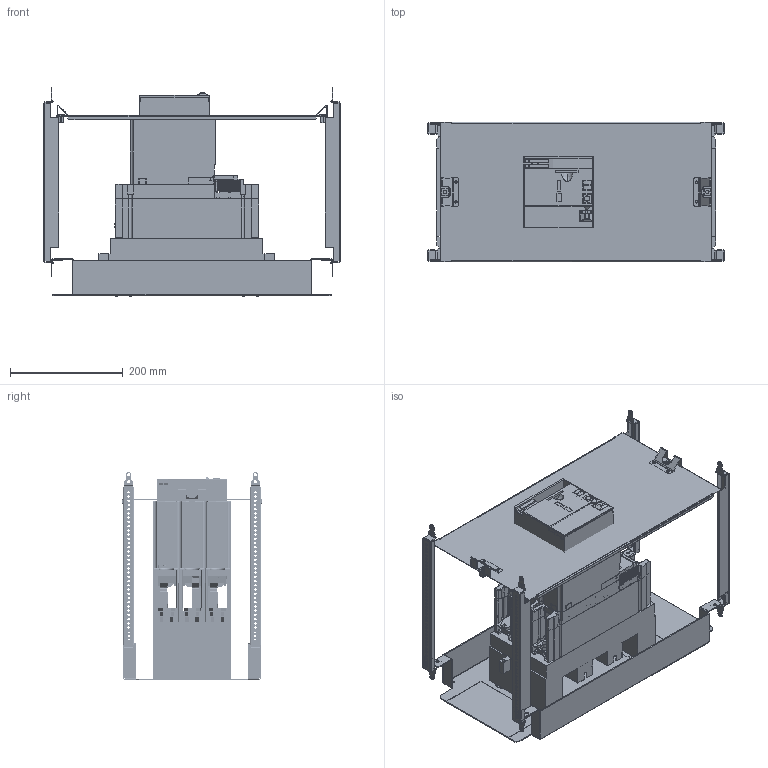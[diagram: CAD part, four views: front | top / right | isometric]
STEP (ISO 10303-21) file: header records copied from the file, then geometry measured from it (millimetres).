
FILE_DESCRIPTION(('CAx-IF Rec.Pracs.---Model Styling and Organization---1.2---2011-12-15','CAx-IF Rec.Pracs.---Geometric and Assembly Validation Properties---4.1---2014-06-16','CAx-IF Rec.Pracs.---PMI Polyline Presentation---2.0---2013-05-24'),'2;1');
FILE_NAME('R5PKIB7H61416.stp','2021-07-29T03:04:35+03:00',(''),(''),'STEP Interface 4.4 by CT CoreTechnologie','3D_Evolution4.4 by CT CoreTechnologie','');
FILE_SCHEMA(('AUTOMOTIVE_DESIGN { 1 0 10303 214 1 1 1 1 }'));
Length unit declared in the file: millimetre
Products named in the file (1): R5PKIB7H61416
Bounding box: 526 x 248 x 369.5 mm (x, y, z)
Surface area: 1770136.5 mm2 (no closed solid volume)
Topology: 0 solids, 81 shells, 6316 faces, 18879 edges, 12620 vertices
Faces by surface type: plane 4268, cylinder 1844, bspline 204
Entity records: 215047 total; most frequent: CARTESIAN_POINT 42053, ORIENTED_EDGE 36918, DIRECTION 34697, EDGE_CURVE 18832, VECTOR 14829, LINE 14829, VERTEX_POINT 12646, AXIS2_PLACEMENT_3D 9934
